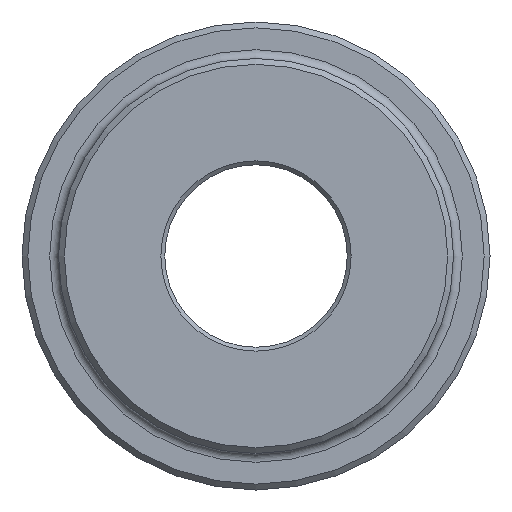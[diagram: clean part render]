
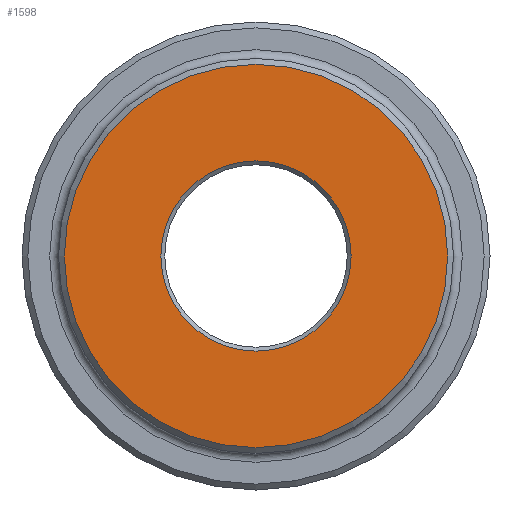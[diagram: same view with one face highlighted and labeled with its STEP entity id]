
A CAD part, left-side view. The second image highlights one B-rep face of the part: STEP entity #1598.
In plain terms, the highlighted planar face has unit normal (-1, 0, 0).
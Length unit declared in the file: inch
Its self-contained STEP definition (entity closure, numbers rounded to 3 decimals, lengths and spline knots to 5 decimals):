
#23 = PLANE ( 'NONE',  #425 ) ;
#425 = AXIS2_PLACEMENT_3D ( 'NONE', #634, #1997, #2155 ) ;
#560 = CARTESIAN_POINT ( 'NONE',  ( 0., 0., -1.97 ) ) ;
#634 = CARTESIAN_POINT ( 'NONE',  ( 0., 0., 0. ) ) ;
#732 = DIRECTION ( 'NONE',  ( 1., 0., 0. ) ) ;
#850 = AXIS2_PLACEMENT_3D ( 'NONE', #1776, #732, #1844 ) ;
#948 = DIRECTION ( 'NONE',  ( -1., 0., 0. ) ) ;
#983 = DIRECTION ( 'NONE',  ( 0., 0., -1. ) ) ;
#1066 = FACE_BOUND ( 'NONE', #1578, .T. ) ;
#1161 = EDGE_CURVE ( 'NONE', #1460, #1460, #1571, .T. ) ;
#1335 = EDGE_LOOP ( 'NONE', ( #1453 ) ) ;
#1418 = FACE_OUTER_BOUND ( 'NONE', #1335, .T. ) ;
#1453 = ORIENTED_EDGE ( 'NONE', *, *, #2328, .T. ) ;
#1460 = VERTEX_POINT ( 'NONE', #2343 ) ;
#1571 = CIRCLE ( 'NONE', #850, 0.97775 ) ;
#1578 = EDGE_LOOP ( 'NONE', ( #2039 ) ) ;
#1598 = ADVANCED_FACE ( 'NONE', ( #1066, #1418 ), #23, .F. ) ;
#1776 = CARTESIAN_POINT ( 'NONE',  ( 0., 0., 0. ) ) ;
#1844 = DIRECTION ( 'NONE',  ( 0., 0., -1. ) ) ;
#1920 = AXIS2_PLACEMENT_3D ( 'NONE', #2340, #948, #983 ) ;
#1943 = VERTEX_POINT ( 'NONE', #560 ) ;
#1997 = DIRECTION ( 'NONE',  ( 1., 0., 0. ) ) ;
#2039 = ORIENTED_EDGE ( 'NONE', *, *, #1161, .T. ) ;
#2155 = DIRECTION ( 'NONE',  ( 0., 0., -1. ) ) ;
#2241 = CIRCLE ( 'NONE', #1920, 1.97 ) ;
#2328 = EDGE_CURVE ( 'NONE', #1943, #1943, #2241, .T. ) ;
#2340 = CARTESIAN_POINT ( 'NONE',  ( 0., 0., 0. ) ) ;
#2343 = CARTESIAN_POINT ( 'NONE',  ( 0., 0., -0.97775 ) ) ;
